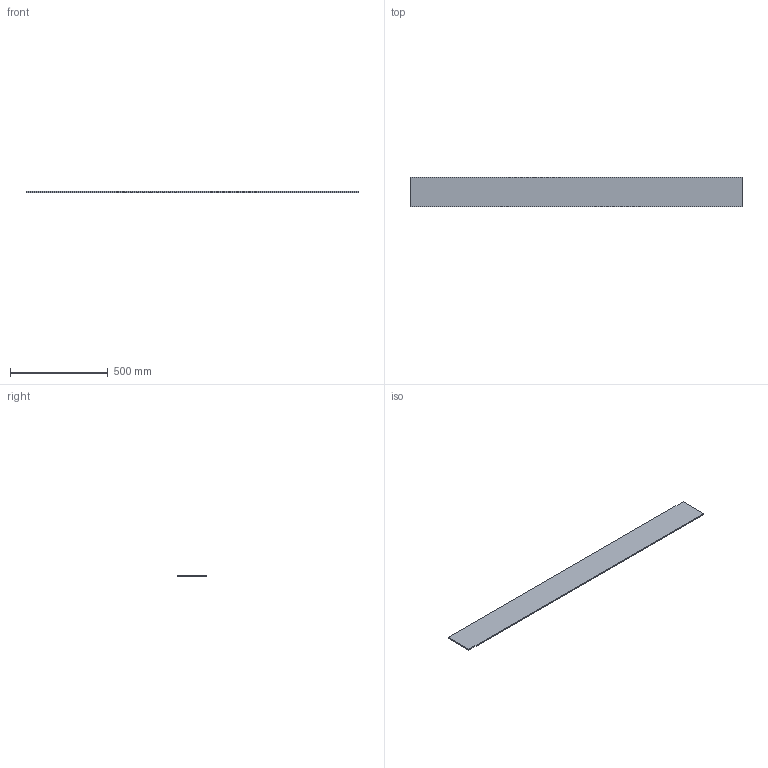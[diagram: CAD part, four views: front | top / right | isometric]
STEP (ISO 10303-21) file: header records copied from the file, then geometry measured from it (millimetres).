
FILE_DESCRIPTION(('Open CASCADE Model'),'2;1');
FILE_NAME('Open CASCADE Shape Model','2026-10-19T10:09:27',('Author'),( 'Open CASCADE'),'Open CASCADE STEP processor 8.0','Open CASCADE 8.0' ,'Unknown');
FILE_SCHEMA(('AUTOMOTIVE_DESIGN { 1 0 10303 214 1 1 1 1 }'));
Length unit declared in the file: millimetre
Products named in the file (1): AC_RODAPIE_1700x150x6 181
Bounding box: 1700 x 150 x 6 mm (x, y, z)
Volume: 1530000 mm3; surface area: 532200 mm2
Topology: 1 solids, 1 shells, 6 faces, 12 edges, 8 vertices
Faces by surface type: plane 6
Entity records: 322 total; most frequent: CARTESIAN_POINT 51, DIRECTION 50, LINE 36, VECTOR 36, ORIENTED_EDGE 24, PCURVE 24, DEFINITIONAL_REPRESENTATION 24, EDGE_CURVE 12
